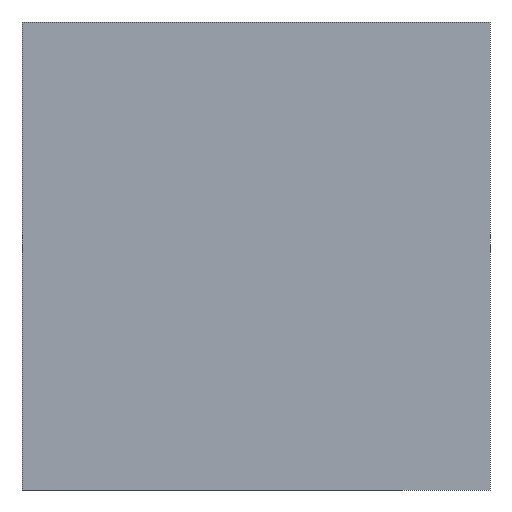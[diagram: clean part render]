
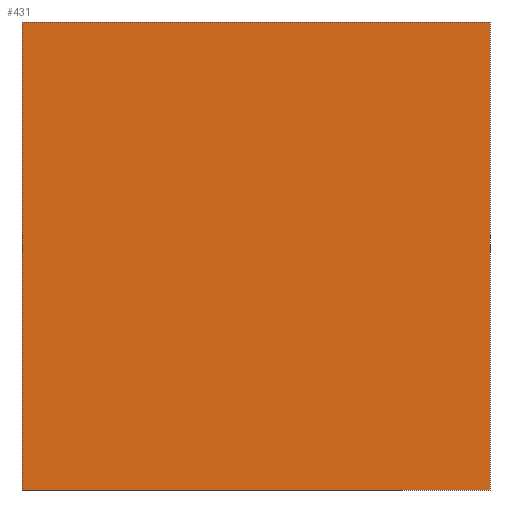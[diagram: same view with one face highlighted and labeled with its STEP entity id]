
A CAD part, left-side view. The second image highlights one B-rep face of the part: STEP entity #431.
In plain terms, the highlighted planar face has unit normal (-1, 0, 0).
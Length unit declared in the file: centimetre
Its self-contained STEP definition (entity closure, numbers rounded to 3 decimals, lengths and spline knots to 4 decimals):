
#17 = VECTOR ( 'NONE', #323, 100. ) ;
#25 = VERTEX_POINT ( 'NONE', #148 ) ;
#30 = ORIENTED_EDGE ( 'NONE', *, *, #118, .T. ) ;
#35 = VECTOR ( 'NONE', #57, 100. ) ;
#37 = VERTEX_POINT ( 'NONE', #212 ) ;
#38 = CARTESIAN_POINT ( 'NONE',  ( 0., 1000., 1000. ) ) ;
#55 = CARTESIAN_POINT ( 'NONE',  ( 0., 1000., 1000. ) ) ;
#57 = DIRECTION ( 'NONE',  ( 0., -1., 0. ) ) ;
#60 = CARTESIAN_POINT ( 'NONE',  ( 0., 0., 1000. ) ) ;
#82 = LINE ( 'NONE', #194, #17 ) ;
#87 = EDGE_CURVE ( 'NONE', #440, #25, #82, .T. ) ;
#90 = DIRECTION ( 'NONE',  ( 0., 0., -1. ) ) ;
#91 = LINE ( 'NONE', #360, #35 ) ;
#94 = LINE ( 'NONE', #60, #322 ) ;
#110 = EDGE_CURVE ( 'NONE', #37, #25, #94, .T. ) ;
#118 = EDGE_CURVE ( 'NONE', #145, #440, #356, .T. ) ;
#123 = DIRECTION ( 'NONE',  ( 0., 0., -1. ) ) ;
#142 = FACE_OUTER_BOUND ( 'NONE', #210, .T. ) ;
#145 = VERTEX_POINT ( 'NONE', #55 ) ;
#148 = CARTESIAN_POINT ( 'NONE',  ( 0., 0., 0. ) ) ;
#190 = EDGE_CURVE ( 'NONE', #145, #37, #91, .T. ) ;
#194 = CARTESIAN_POINT ( 'NONE',  ( 0., 1000., 0. ) ) ;
#210 = EDGE_LOOP ( 'NONE', ( #432, #376, #265, #30 ) ) ;
#212 = CARTESIAN_POINT ( 'NONE',  ( 0., 0., 1000. ) ) ;
#216 = DIRECTION ( 'NONE',  ( 0., 0., -1. ) ) ;
#237 = AXIS2_PLACEMENT_3D ( 'NONE', #38, #380, #216 ) ;
#265 = ORIENTED_EDGE ( 'NONE', *, *, #190, .F. ) ;
#322 = VECTOR ( 'NONE', #90, 100. ) ;
#323 = DIRECTION ( 'NONE',  ( 0., -1., 0. ) ) ;
#347 = PLANE ( 'NONE',  #237 ) ;
#356 = LINE ( 'NONE', #394, #368 ) ;
#360 = CARTESIAN_POINT ( 'NONE',  ( 0., 1000., 1000. ) ) ;
#368 = VECTOR ( 'NONE', #123, 100. ) ;
#376 = ORIENTED_EDGE ( 'NONE', *, *, #110, .F. ) ;
#380 = DIRECTION ( 'NONE',  ( 1., 0., 0. ) ) ;
#394 = CARTESIAN_POINT ( 'NONE',  ( 0., 1000., 1000. ) ) ;
#414 = CARTESIAN_POINT ( 'NONE',  ( 0., 1000., 0. ) ) ;
#431 = ADVANCED_FACE ( 'NONE', ( #142 ), #347, .F. ) ;
#432 = ORIENTED_EDGE ( 'NONE', *, *, #87, .T. ) ;
#440 = VERTEX_POINT ( 'NONE', #414 ) ;
